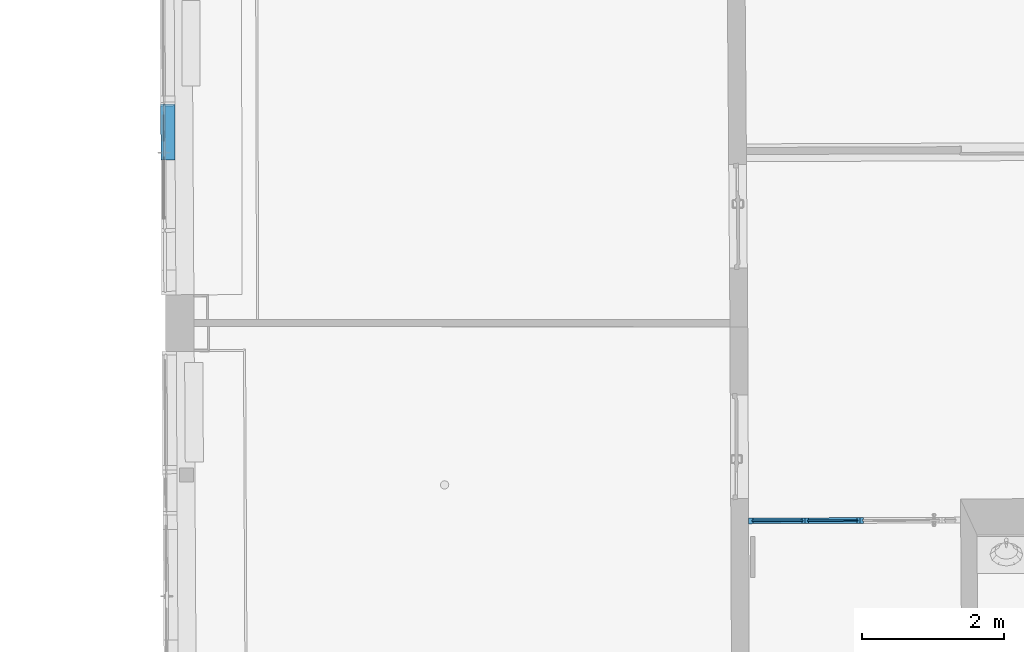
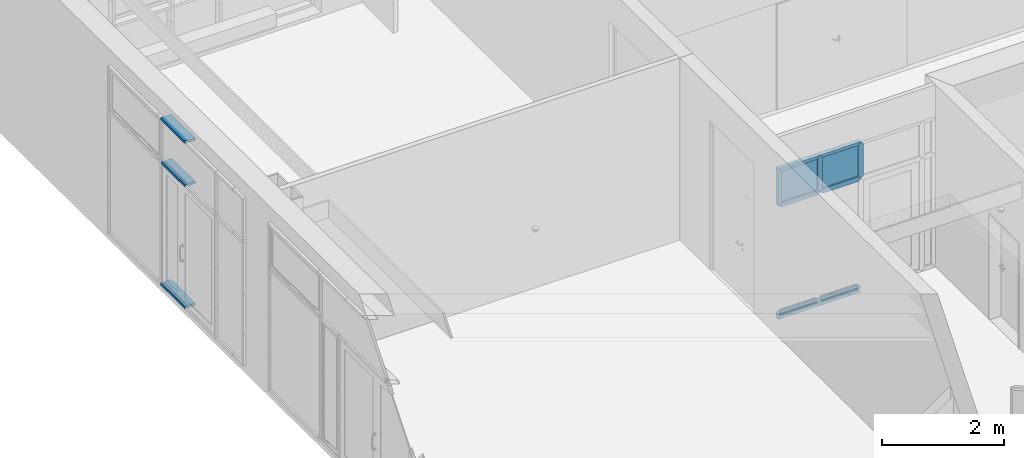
# One storey, part 154 of 196: 20 building element parts, 2 elements without a shape of their own.
"""IFC2X3 building model written with IfcOpenShell, lengths in metres."""

from ifc_helpers import new_model, entity, si_unit, converted_unit, derived_unit, money_unit, direction, frame, origin_with_axes, place, context, subcontext, project, spatial, faceted_brep, material, type_object, element, aggregate, save


model = new_model("IFC2X3")

# Units and contexts
model_context = context("Model", 3, precision=1e-05, world=origin_with_axes(), true_north=direction((0.0, 1.0)))
body_context = subcontext(model_context, "Body", "Model", "MODEL_VIEW")
ifc_project = project(units=[si_unit("LENGTHUNIT", "METRE"), si_unit("AREAUNIT", "SQUARE_METRE"), si_unit("VOLUMEUNIT", "CUBIC_METRE"), converted_unit("PLANEANGLEUNIT", "DEGREE", entity("IfcPlaneAngleMeasure", 0.0174532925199), si_unit("PLANEANGLEUNIT", "RADIAN"), dimensions=[0, 0, 0, 0, 0, 0, 0]), money_unit("EUR"), converted_unit("TIMEUNIT", "Year", entity("IfcTimeMeasure", 31556926.0), si_unit("TIMEUNIT", "SECOND"), dimensions=[0, 0, 1, 0, 0, 0, 0]), si_unit("MASSUNIT", "GRAM", prefix="KILO"), si_unit("THERMODYNAMICTEMPERATUREUNIT", "DEGREE_CELSIUS"), si_unit("LUMINOUSINTENSITYUNIT", "LUMEN"), si_unit("ENERGYUNIT", "JOULE", prefix="MEGA"), derived_unit("THERMALCONDUCTANCEUNIT", [(si_unit("POWERUNIT", "WATT"), 1), (si_unit("LENGTHUNIT", "METRE"), -1), (si_unit("THERMODYNAMICTEMPERATUREUNIT", "KELVIN"), -1)]), derived_unit("SPECIFICHEATCAPACITYUNIT", [(si_unit("ENERGYUNIT", "JOULE"), 1), (si_unit("MASSUNIT", "GRAM", prefix="KILO"), -1), (si_unit("THERMODYNAMICTEMPERATUREUNIT", "KELVIN"), -1)]), derived_unit("MASSDENSITYUNIT", [(si_unit("MASSUNIT", "GRAM", prefix="KILO"), 1), (si_unit("VOLUMEUNIT", "CUBIC_METRE"), -1)])], contexts=[model_context])

# Site, building, storey
site_placement = place(None, origin_with_axes())
site = spatial("IfcSite", under=ifc_project, at=site_placement, Name="Gelände", CompositionType="ELEMENT")
building_placement = place(site_placement, origin_with_axes())
building = spatial("IfcBuilding", under=site, at=building_placement, Name="Gebäude", CompositionType="ELEMENT")
storey_placement = place(building_placement, frame((0.0, 0.0, -3.0), z_axis=(0.0, 0.0, 1.0), x_axis=(1.0, 0.0, 0.0)))
storey = spatial("IfcBuildingStorey", under=building, at=storey_placement, Name="KELLERGESCHOSS", CompositionType="ELEMENT", Elevation=-3.0)

# Proxy, building element parts
building_element_proxy_type = type_object("IfcBuildingElementProxyType", Name="Fassadentyp", PredefinedType="NOTDEFINED")
proxy_1_placement = place(storey_placement, frame((-23.852064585, 42.2751077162, 0.417602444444), z_axis=(0.0, 0.0, 1.0), x_axis=(1.0, 0.0, 0.0)))
proxy_1 = element("IfcBuildingElementProxy", 1, at=proxy_1_placement, inside=storey, type_object=building_element_proxy_type, Name="Fassade-002")
ifc_material_1 = material(Name="45_Glas, Normalglas")
building_element_part_1_placement = place(proxy_1_placement, origin_with_axes())
building_element_part_1 = element("IfcBuildingElementPart", 2, at=building_element_part_1_placement, material=ifc_material_1, Name="45_Glas, Normalglas", context=body_context, shape_type="Brep", body=[
    faceted_brep([(-1.31205022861, 0.00475962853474, 2.96000001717), (-2.02504279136, 0.0019118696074, 2.96000001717), (-2.02496291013, -0.0180879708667, 2.96000001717), (-1.31197034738, -0.0152402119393, 2.96000001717), (-1.31205022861, 0.00475962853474, 2.29924697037), (-2.02504279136, 0.0019118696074, 2.29924697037), (-2.02496291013, -0.0180879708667, 2.29924697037), (-1.31197034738, -0.0152402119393, 2.29924697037)], [[[0, 1, 2, 3]], [[0, 4, 5, 1]], [[1, 5, 6, 2]], [[3, 2, 6, 7]], [[4, 0, 3, 7]], [[5, 4, 7, 6]]]),
])
building_element_part_2_placement = place(proxy_1_placement, origin_with_axes())
building_element_part_2 = element("IfcBuildingElementPart", 3, at=building_element_part_2_placement, material=ifc_material_1, Name="45_Glas, Normalglas", context=body_context, shape_type="Brep", body=[
    faceted_brep([(-2.08504230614, 0.00167222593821, 2.96000002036), (-2.80598863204, -0.00120730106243, 2.96000002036), (-2.80590875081, -0.0212071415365, 2.96000002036), (-2.08496242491, -0.0183276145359, 2.96000002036), (-2.08504230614, 0.00167222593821, 2.29924696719), (-2.80598863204, -0.00120730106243, 2.29924696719), (-2.80590875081, -0.0212071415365, 2.29924696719), (-2.08496242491, -0.0183276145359, 2.29924696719)], [[[0, 1, 2, 3]], [[0, 4, 5, 1]], [[1, 5, 6, 2]], [[3, 2, 6, 7]], [[4, 0, 3, 7]], [[5, 4, 7, 6]]]),
])
building_element_part_3_placement = place(proxy_1_placement, origin_with_axes())
building_element_part_3 = element("IfcBuildingElementPart", 4, at=building_element_part_3_placement, material=ifc_material_1, Name="45_Glas, Normalglas", context=body_context, shape_type="Brep", body=[
    faceted_brep([(-1.31205022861, 0.00475962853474, 0.074973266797), (-2.02504279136, 0.0019118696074, 0.074973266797), (-2.02496291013, -0.0180879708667, 0.074973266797), (-1.31197034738, -0.0152402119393, 0.074973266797), (-1.31205022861, 0.00475962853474, 0.0450000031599), (-2.02504279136, 0.0019118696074, 0.0450000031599), (-2.02496291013, -0.0180879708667, 0.0450000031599), (-1.31197034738, -0.0152402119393, 0.0450000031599)], [[[0, 1, 2, 3]], [[0, 4, 5, 1]], [[1, 5, 6, 2]], [[3, 2, 6, 7]], [[4, 0, 3, 7]], [[5, 4, 7, 6]]]),
])
building_element_part_4_placement = place(proxy_1_placement, origin_with_axes())
building_element_part_4 = element("IfcBuildingElementPart", 5, at=building_element_part_4_placement, material=ifc_material_1, Name="45_Glas, Normalglas", context=body_context, shape_type="Brep", body=[
    faceted_brep([(-2.08504230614, 0.00167222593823, 0.0749732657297), (-2.80598863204, -0.00120730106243, 0.0749732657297), (-2.80590875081, -0.0212071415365, 0.0749732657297), (-2.08496242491, -0.0183276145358, 0.0749732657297), (-2.08504230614, 0.00167222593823, 0.0450000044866), (-2.80598863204, -0.00120730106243, 0.0450000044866), (-2.80590875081, -0.0212071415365, 0.0450000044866), (-2.08496242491, -0.0183276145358, 0.0450000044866)], [[[0, 1, 2, 3]], [[0, 4, 5, 1]], [[1, 5, 6, 2]], [[3, 2, 6, 7]], [[4, 0, 3, 7]], [[5, 4, 7, 6]]]),
])
ifc_material_2 = material(Name="53_Metall, Aluminium")
building_element_part_5_placement = place(proxy_1_placement, origin_with_axes())
building_element_part_5 = element("IfcBuildingElementPart", 6, at=building_element_part_5_placement, material=ifc_material_2, Name="53_Metall, Aluminium", context=body_context, shape_type="Brep", body=[
    faceted_brep([(-2.80598863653, -0.00120730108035, 2.96000001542), (-2.79098875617, -0.00114739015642, 2.94500001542), (-2.79110857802, 0.0288523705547, 2.94500001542), (-2.85110809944, 0.028612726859, 3.00500001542), (-2.85078857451, -0.0513866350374, 3.00500001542), (-2.79078905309, -0.0511469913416, 2.94500001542), (-2.79090887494, -0.0211472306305, 2.94500001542), (-2.8059087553, -0.0212071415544, 2.96000001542), (-2.80598863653, -0.00120730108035, 2.30299697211), (-2.79098875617, -0.00114739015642, 2.31424697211), (-2.79110857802, 0.0288523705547, 2.31424697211), (-2.85110809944, 0.028612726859, 2.26924697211), (-2.85078857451, -0.0513866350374, 2.26924697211), (-2.79078905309, -0.0511469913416, 2.31424697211), (-2.79090887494, -0.0211472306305, 2.31424697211), (-2.8059087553, -0.0212071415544, 2.30299697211)], [[[0, 1, 2, 3, 4, 5, 6, 7]], [[0, 8, 9, 1]], [[9, 10, 2, 1]], [[10, 11, 3, 2]], [[11, 12, 4, 3]], [[12, 13, 5, 4]], [[6, 5, 13, 14]], [[14, 15, 7, 6]], [[7, 15, 8, 0]], [[8, 15, 14, 13, 12, 11, 10, 9]]]),
])
building_element_part_6_placement = place(proxy_1_placement, origin_with_axes())
building_element_part_6 = element("IfcBuildingElementPart", 7, at=building_element_part_6_placement, material=ifc_material_2, Name="53_Metall, Aluminium", context=body_context, shape_type="Brep", body=[
    faceted_brep([(-2.02504278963, 0.00191186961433, 2.96500001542), (-2.01004290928, 0.00197178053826, 2.94500001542), (-2.01016273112, 0.0319715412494, 2.94500001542), (-2.05516237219, 0.0317918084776, 3.00500001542), (-2.05484284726, -0.0482075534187, 3.00500001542), (-2.0098432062, -0.048027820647, 2.94500001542), (-2.00996302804, -0.0180280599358, 2.94500001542), (-2.0249629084, -0.0180879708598, 2.96500001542), (-2.02504278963, 0.00191186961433, 2.29924697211), (-2.01004290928, 0.00197178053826, 2.31424697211), (-2.01016273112, 0.0319715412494, 2.31424697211), (-2.05516237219, 0.0317918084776, 2.26924697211), (-2.10016201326, 0.0316120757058, 2.31424697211), (-2.10016201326, 0.0316120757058, 2.94500001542), (-2.10004219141, 0.00161231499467, 2.94500001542), (-2.08504231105, 0.0016722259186, 2.96500001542), (-2.08496242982, -0.0183276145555, 2.96500001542), (-2.09996231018, -0.0183875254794, 2.94500001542), (-2.09984248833, -0.0483872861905, 2.94500001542), (-2.05484284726, -0.0482075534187, 2.26924697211), (-2.0098432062, -0.048027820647, 2.31424697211), (-2.09984248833, -0.0483872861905, 2.31424697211), (-2.00996302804, -0.0180280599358, 2.31424697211), (-2.0249629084, -0.0180879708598, 2.29924697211), (-2.09996231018, -0.0183875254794, 2.31424697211), (-2.08496242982, -0.0183276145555, 2.29924697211), (-2.08504231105, 0.0016722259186, 2.29924697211), (-2.10004219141, 0.00161231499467, 2.31424697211)], [[[0, 1, 2, 3, 4, 5, 6, 7]], [[1, 0, 8, 9]], [[1, 9, 10, 2]], [[11, 12, 13, 3, 2, 10]], [[3, 13, 14, 15, 16, 17, 18, 4]], [[19, 20, 5, 4, 18, 21]], [[22, 6, 5, 20]], [[7, 6, 22, 23]], [[0, 7, 23, 8]], [[23, 22, 20, 19, 11, 10, 9, 8]], [[21, 24, 25, 26, 27, 12, 11, 19]], [[14, 13, 12, 27]], [[14, 27, 26, 15]], [[15, 26, 25, 16]], [[17, 16, 25, 24]], [[24, 21, 18, 17]]]),
])
building_element_part_7_placement = place(proxy_1_placement, origin_with_axes())
building_element_part_7 = element("IfcBuildingElementPart", 8, at=building_element_part_7_placement, material=ifc_material_2, Name="53_Metall, Aluminium", context=body_context, shape_type="Brep", body=[
    faceted_brep([(-2.08879228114, 0.00165724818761, 0.045), (-2.08871239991, -0.0183425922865, 0.045), (-2.09996231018, -0.0183875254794, 0.06), (-2.09984248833, -0.0483872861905, 0.06), (-2.05484284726, -0.0482075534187, 0.0), (-2.05516237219, 0.0317918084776, 0.0), (-2.10016201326, 0.0316120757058, 0.06), (-2.10004219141, 0.00161231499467, 0.06), (-2.80598863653, -0.00120730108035, 0.045), (-2.8059087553, -0.0212071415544, 0.045), (-2.79090887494, -0.0211472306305, 0.06), (-2.79078905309, -0.0511469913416, 0.06), (-2.85078857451, -0.0513866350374, 0.0), (-2.85110809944, 0.028612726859, 0.0), (-2.79110857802, 0.0288523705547, 0.06), (-2.79098875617, -0.00114739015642, 0.06)], [[[0, 1, 2, 3, 4, 5, 6, 7]], [[1, 0, 8, 9]], [[10, 2, 1, 9]], [[2, 10, 11, 3]], [[4, 3, 11, 12]], [[5, 4, 12, 13]], [[6, 5, 13, 14]], [[15, 7, 6, 14]], [[0, 7, 15, 8]], [[8, 15, 14, 13, 12, 11, 10, 9]]]),
])
building_element_part_8_placement = place(proxy_1_placement, origin_with_axes())
building_element_part_8 = element("IfcBuildingElementPart", 9, at=building_element_part_8_placement, material=ifc_material_2, Name="53_Metall, Aluminium", context=body_context, shape_type="Brep", body=[
    faceted_brep([(-2.08879228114, 0.00165724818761, 2.96000001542), (-2.10004219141, 0.00161231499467, 2.94500001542), (-2.10016201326, 0.0316120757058, 2.94500001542), (-2.05516237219, 0.0317918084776, 3.00500001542), (-2.05484284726, -0.0482075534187, 3.00500001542), (-2.09984248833, -0.0483872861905, 2.94500001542), (-2.09996231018, -0.0183875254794, 2.94500001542), (-2.08871239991, -0.0183425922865, 2.96000001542), (-2.80598863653, -0.00120730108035, 2.96000001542), (-2.79098875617, -0.00114739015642, 2.94500001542), (-2.79110857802, 0.0288523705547, 2.94500001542), (-2.85110809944, 0.028612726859, 3.00500001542), (-2.85078857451, -0.0513866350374, 3.00500001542), (-2.79078905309, -0.0511469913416, 2.94500001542), (-2.79090887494, -0.0211472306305, 2.94500001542), (-2.8059087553, -0.0212071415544, 2.96000001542)], [[[0, 1, 2, 3, 4, 5, 6, 7]], [[0, 8, 9, 1]], [[9, 10, 2, 1]], [[2, 10, 11, 3]], [[3, 11, 12, 4]], [[4, 12, 13, 5]], [[6, 5, 13, 14]], [[14, 15, 7, 6]], [[7, 15, 8, 0]], [[8, 15, 14, 13, 12, 11, 10, 9]]]),
])
building_element_part_9_placement = place(proxy_1_placement, origin_with_axes())
building_element_part_9 = element("IfcBuildingElementPart", 10, at=building_element_part_9_placement, material=ifc_material_2, Name="53_Metall, Aluminium", context=body_context, shape_type="Brep", body=[
    faceted_brep([(-1.31580020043, 0.00474465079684, 2.96000001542), (-1.3270501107, 0.0046997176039, 2.94500001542), (-1.32716993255, 0.034699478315, 2.94500001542), (-1.28217029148, 0.0348792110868, 3.00500001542), (-1.28185076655, -0.0451201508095, 3.00500001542), (-1.32685040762, -0.0452998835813, 2.94500001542), (-1.32697022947, -0.0153001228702, 2.94500001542), (-1.3157203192, -0.0152551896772, 2.96000001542), (-2.02129281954, 0.00192684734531, 2.96000001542), (-2.01004290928, 0.00197178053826, 2.94500001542), (-2.01016273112, 0.0319715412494, 2.94500001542), (-2.05516237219, 0.0317918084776, 3.00500001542), (-2.05484284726, -0.0482075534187, 3.00500001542), (-2.0098432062, -0.048027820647, 2.94500001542), (-2.00996302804, -0.0180280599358, 2.94500001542), (-2.02121293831, -0.0180729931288, 2.96000001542)], [[[0, 1, 2, 3, 4, 5, 6, 7]], [[0, 8, 9, 1]], [[9, 10, 2, 1]], [[2, 10, 11, 3]], [[3, 11, 12, 4]], [[4, 12, 13, 5]], [[6, 5, 13, 14]], [[14, 15, 7, 6]], [[7, 15, 8, 0]], [[8, 15, 14, 13, 12, 11, 10, 9]]]),
])
building_element_part_10_placement = place(proxy_1_placement, origin_with_axes())
building_element_part_10 = element("IfcBuildingElementPart", 11, at=building_element_part_10_placement, material=ifc_material_2, Name="53_Metall, Aluminium", context=body_context, shape_type="Brep", body=[
    faceted_brep([(-1.25205070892, 0.00499927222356, 2.96500001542), (-1.23705082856, 0.00505918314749, 2.94500001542), (-1.23717065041, 0.0350589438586, 2.94500001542), (-1.28217029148, 0.0348792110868, 3.00500001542), (-1.28185076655, -0.0451201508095, 3.00500001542), (-1.23685112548, -0.0449404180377, 2.94500001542), (-1.23697094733, -0.0149406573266, 2.94500001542), (-1.25197082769, -0.0150005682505, 2.96500001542), (-1.25205070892, 0.00499927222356, 2.29924697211), (-1.23705082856, 0.00505918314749, 2.31424697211), (-1.23717065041, 0.0350589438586, 2.31424697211), (-1.28217029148, 0.0348792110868, 2.26924697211), (-1.32716993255, 0.034699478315, 2.31424697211), (-1.32716993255, 0.034699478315, 2.94500001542), (-1.3270501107, 0.0046997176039, 2.94500001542), (-1.31205023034, 0.00475962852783, 2.96500001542), (-1.31197034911, -0.0152402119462, 2.96500001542), (-1.32697022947, -0.0153001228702, 2.94500001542), (-1.32685040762, -0.0452998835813, 2.94500001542), (-1.28185076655, -0.0451201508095, 2.26924697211), (-1.23685112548, -0.0449404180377, 2.31424697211), (-1.32685040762, -0.0452998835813, 2.31424697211), (-1.23697094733, -0.0149406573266, 2.31424697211), (-1.25197082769, -0.0150005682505, 2.29924697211), (-1.32697022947, -0.0153001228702, 2.31424697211), (-1.31197034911, -0.0152402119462, 2.29924697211), (-1.31205023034, 0.00475962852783, 2.29924697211), (-1.3270501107, 0.0046997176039, 2.31424697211)], [[[0, 1, 2, 3, 4, 5, 6, 7]], [[1, 0, 8, 9]], [[1, 9, 10, 2]], [[11, 12, 13, 3, 2, 10]], [[3, 13, 14, 15, 16, 17, 18, 4]], [[19, 20, 5, 4, 18, 21]], [[22, 6, 5, 20]], [[7, 6, 22, 23]], [[0, 7, 23, 8]], [[23, 22, 20, 19, 11, 10, 9, 8]], [[21, 24, 25, 26, 27, 12, 11, 19]], [[14, 13, 12, 27]], [[14, 27, 26, 15]], [[15, 26, 25, 16]], [[17, 16, 25, 24]], [[24, 21, 18, 17]]]),
])
building_element_part_11_placement = place(proxy_1_placement, origin_with_axes())
building_element_part_11 = element("IfcBuildingElementPart", 12, at=building_element_part_11_placement, material=ifc_material_2, Name="53_Metall, Aluminium", context=body_context, shape_type="Brep", body=[
    faceted_brep([(-1.31580020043, 0.00474465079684, 0.045), (-1.3157203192, -0.0152551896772, 0.045), (-1.32697022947, -0.0153001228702, 0.06), (-1.32685040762, -0.0452998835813, 0.06), (-1.28185076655, -0.0451201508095, 0.0), (-1.28217029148, 0.0348792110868, 0.0), (-1.32716993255, 0.034699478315, 0.06), (-1.3270501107, 0.0046997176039, 0.06), (-2.02129281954, 0.00192684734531, 0.045), (-2.02121293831, -0.0180729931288, 0.045), (-2.00996302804, -0.0180280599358, 0.06), (-2.0098432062, -0.048027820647, 0.06), (-2.05484284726, -0.0482075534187, 0.0), (-2.05516237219, 0.0317918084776, 0.0), (-2.01016273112, 0.0319715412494, 0.06), (-2.01004290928, 0.00197178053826, 0.06)], [[[0, 1, 2, 3, 4, 5, 6, 7]], [[1, 0, 8, 9]], [[10, 2, 1, 9]], [[2, 10, 11, 3]], [[4, 3, 11, 12]], [[5, 4, 12, 13]], [[6, 5, 13, 14]], [[15, 7, 6, 14]], [[0, 7, 15, 8]], [[8, 15, 14, 13, 12, 11, 10, 9]]]),
])
building_element_part_12_placement = place(proxy_1_placement, origin_with_axes())
building_element_part_12 = element("IfcBuildingElementPart", 13, at=building_element_part_12_placement, material=ifc_material_2, Name="53_Metall, Aluminium", context=body_context, shape_type="Brep", body=[
    faceted_brep([(-1.31205023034, 0.00475962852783, 2.23924697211), (-1.3270501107, 0.0046997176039, 2.22424697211), (-1.32716993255, 0.034699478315, 2.22424697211), (-1.28217029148, 0.0348792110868, 2.26924697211), (-1.28185076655, -0.0451201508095, 2.26924697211), (-1.32685040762, -0.0452998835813, 2.22424697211), (-1.32697022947, -0.0153001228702, 2.22424697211), (-1.31197034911, -0.0152402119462, 2.23924697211), (-2.02504278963, 0.00191186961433, 2.23924697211), (-2.01004290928, 0.00197178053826, 2.22424697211), (-2.01016273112, 0.0319715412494, 2.22424697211), (-2.05516237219, 0.0317918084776, 2.26924697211), (-2.01016273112, 0.0319715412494, 2.31424697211), (-1.32716993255, 0.034699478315, 2.31424697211), (-1.3270501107, 0.0046997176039, 2.31424697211), (-1.31205023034, 0.00475962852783, 2.29924697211), (-1.31197034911, -0.0152402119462, 2.29924697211), (-1.32697022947, -0.0153001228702, 2.31424697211), (-1.32685040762, -0.0452998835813, 2.31424697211), (-2.05484284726, -0.0482075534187, 2.26924697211), (-2.0098432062, -0.048027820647, 2.22424697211), (-2.0098432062, -0.048027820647, 2.31424697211), (-2.00996302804, -0.0180280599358, 2.22424697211), (-2.0249629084, -0.0180879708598, 2.23924697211), (-2.00996302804, -0.0180280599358, 2.31424697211), (-2.0249629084, -0.0180879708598, 2.29924697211), (-2.02504278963, 0.00191186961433, 2.29924697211), (-2.01004290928, 0.00197178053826, 2.31424697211)], [[[0, 1, 2, 3, 4, 5, 6, 7]], [[1, 0, 8, 9]], [[1, 9, 10, 2]], [[11, 12, 13, 3, 2, 10]], [[3, 13, 14, 15, 16, 17, 18, 4]], [[19, 20, 5, 4, 18, 21]], [[22, 6, 5, 20]], [[7, 6, 22, 23]], [[0, 7, 23, 8]], [[23, 22, 20, 19, 11, 10, 9, 8]], [[21, 24, 25, 26, 27, 12, 11, 19]], [[14, 13, 12, 27]], [[14, 27, 26, 15]], [[15, 26, 25, 16]], [[17, 16, 25, 24]], [[24, 21, 18, 17]]]),
])
building_element_part_13_placement = place(proxy_1_placement, origin_with_axes())
building_element_part_13 = element("IfcBuildingElementPart", 14, at=building_element_part_13_placement, material=ifc_material_2, Name="53_Metall, Aluminium", context=body_context, shape_type="Brep", body=[
    faceted_brep([(-2.08504231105, 0.0016722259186, 2.23924697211), (-2.10004219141, 0.00161231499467, 2.22424697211), (-2.10016201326, 0.0316120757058, 2.22424697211), (-2.05516237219, 0.0317918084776, 2.26924697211), (-2.05484284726, -0.0482075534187, 2.26924697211), (-2.09984248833, -0.0483872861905, 2.22424697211), (-2.09996231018, -0.0183875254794, 2.22424697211), (-2.08496242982, -0.0183276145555, 2.23924697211), (-2.81098859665, -0.00122727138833, 2.23924697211), (-2.79098875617, -0.00114739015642, 2.22424697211), (-2.79110857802, 0.0288523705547, 2.22424697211), (-2.85110809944, 0.028612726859, 2.26924697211), (-2.79110857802, 0.0288523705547, 2.31424697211), (-2.10016201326, 0.0316120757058, 2.31424697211), (-2.10004219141, 0.00161231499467, 2.31424697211), (-2.08504231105, 0.0016722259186, 2.29924697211), (-2.08496242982, -0.0183276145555, 2.29924697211), (-2.09996231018, -0.0183875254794, 2.31424697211), (-2.09984248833, -0.0483872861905, 2.31424697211), (-2.85078857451, -0.0513866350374, 2.26924697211), (-2.79078905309, -0.0511469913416, 2.22424697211), (-2.79078905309, -0.0511469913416, 2.31424697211), (-2.79090887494, -0.0211472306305, 2.22424697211), (-2.81090871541, -0.0212271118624, 2.23924697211), (-2.79090887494, -0.0211472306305, 2.31424697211), (-2.81090871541, -0.0212271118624, 2.29924697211), (-2.81098859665, -0.00122727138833, 2.29924697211), (-2.79098875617, -0.00114739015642, 2.31424697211)], [[[0, 1, 2, 3, 4, 5, 6, 7]], [[1, 0, 8, 9]], [[1, 9, 10, 2]], [[11, 12, 13, 3, 2, 10]], [[3, 13, 14, 15, 16, 17, 18, 4]], [[19, 20, 5, 4, 18, 21]], [[22, 6, 5, 20]], [[7, 6, 22, 23]], [[0, 7, 23, 8]], [[23, 22, 20, 19, 11, 10, 9, 8]], [[21, 24, 25, 26, 27, 12, 11, 19]], [[14, 13, 12, 27]], [[14, 27, 26, 15]], [[15, 26, 25, 16]], [[17, 16, 25, 24]], [[24, 21, 18, 17]]]),
])
building_element_part_14_placement = place(proxy_1_placement, origin_with_axes())
building_element_part_14 = element("IfcBuildingElementPart", 15, at=building_element_part_14_placement, material=ifc_material_2, Name="53_Metall, Aluminium", context=body_context, shape_type="Brep", body=[
    faceted_brep([(-1.3101752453, 0.00476711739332, 0.0749732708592), (-1.3270501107, 0.0046997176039, 0.0599732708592), (-1.32716993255, 0.034699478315, 0.0599732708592), (-1.28217029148, 0.0348792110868, 0.0999732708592), (-1.28185076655, -0.0451201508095, 0.0999732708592), (-1.32685040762, -0.0452998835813, 0.0599732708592), (-1.32697022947, -0.0153001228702, 0.0599732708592), (-1.31009536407, -0.0152327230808, 0.0749732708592), (-2.02691777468, 0.00190438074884, 0.0749732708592), (-2.01004290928, 0.00197178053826, 0.0599732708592), (-2.01016273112, 0.0319715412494, 0.0599732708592), (-2.05516237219, 0.0317918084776, 0.0999732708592), (-2.01016273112, 0.0319715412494, 0.139973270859), (-1.32716993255, 0.034699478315, 0.139973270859), (-1.3270501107, 0.0046997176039, 0.139973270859), (-1.3101752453, 0.00476711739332, 0.124973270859), (-1.31009536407, -0.0152327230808, 0.124973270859), (-1.32697022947, -0.0153001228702, 0.139973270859), (-1.32685040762, -0.0452998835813, 0.139973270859), (-2.05484284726, -0.0482075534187, 0.0999732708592), (-2.0098432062, -0.048027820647, 0.0599732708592), (-2.0098432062, -0.048027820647, 0.139973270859), (-2.00996302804, -0.0180280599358, 0.0599732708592), (-2.02683789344, -0.0180954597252, 0.0749732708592), (-2.00996302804, -0.0180280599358, 0.139973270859), (-2.02683789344, -0.0180954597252, 0.124973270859), (-2.02691777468, 0.00190438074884, 0.124973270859), (-2.01004290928, 0.00197178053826, 0.139973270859)], [[[0, 1, 2, 3, 4, 5, 6, 7]], [[1, 0, 8, 9]], [[1, 9, 10, 2]], [[11, 12, 13, 3, 2, 10]], [[3, 13, 14, 15, 16, 17, 18, 4]], [[19, 20, 5, 4, 18, 21]], [[22, 6, 5, 20]], [[7, 6, 22, 23]], [[0, 7, 23, 8]], [[23, 22, 20, 19, 11, 10, 9, 8]], [[21, 24, 25, 26, 27, 12, 11, 19]], [[14, 13, 12, 27]], [[14, 27, 26, 15]], [[15, 26, 25, 16]], [[17, 16, 25, 24]], [[24, 21, 18, 17]]]),
])
building_element_part_15_placement = place(proxy_1_placement, origin_with_axes())
building_element_part_15 = element("IfcBuildingElementPart", 16, at=building_element_part_15_placement, material=ifc_material_2, Name="53_Metall, Aluminium", context=body_context, shape_type="Brep", body=[
    faceted_brep([(-2.08316732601, 0.00167971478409, 0.0749732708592), (-2.10004219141, 0.00161231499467, 0.0599732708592), (-2.10016201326, 0.0316120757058, 0.0599732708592), (-2.05516237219, 0.0317918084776, 0.0999732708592), (-2.05484284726, -0.0482075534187, 0.0999732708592), (-2.09984248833, -0.0483872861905, 0.0599732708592), (-2.09996231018, -0.0183875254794, 0.0599732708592), (-2.08308744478, -0.01832012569, 0.0749732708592), (-2.81348857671, -0.00123725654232, 0.0749732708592), (-2.79098875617, -0.00114739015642, 0.0599732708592), (-2.79110857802, 0.0288523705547, 0.0599732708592), (-2.85110809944, 0.028612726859, 0.0999732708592), (-2.79110857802, 0.0288523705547, 0.139973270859), (-2.10016201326, 0.0316120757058, 0.139973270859), (-2.10004219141, 0.00161231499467, 0.139973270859), (-2.08316732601, 0.00167971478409, 0.124973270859), (-2.08308744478, -0.01832012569, 0.124973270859), (-2.09996231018, -0.0183875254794, 0.139973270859), (-2.09984248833, -0.0483872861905, 0.139973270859), (-2.85078857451, -0.0513866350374, 0.0999732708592), (-2.79078905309, -0.0511469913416, 0.0599732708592), (-2.79078905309, -0.0511469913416, 0.139973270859), (-2.79090887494, -0.0211472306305, 0.0599732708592), (-2.81340869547, -0.0212370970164, 0.0749732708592), (-2.79090887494, -0.0211472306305, 0.139973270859), (-2.81340869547, -0.0212370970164, 0.124973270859), (-2.81348857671, -0.00123725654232, 0.124973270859), (-2.79098875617, -0.00114739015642, 0.139973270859)], [[[0, 1, 2, 3, 4, 5, 6, 7]], [[1, 0, 8, 9]], [[1, 9, 10, 2]], [[11, 12, 13, 3, 2, 10]], [[3, 13, 14, 15, 16, 17, 18, 4]], [[19, 20, 5, 4, 18, 21]], [[22, 6, 5, 20]], [[7, 6, 22, 23]], [[0, 7, 23, 8]], [[23, 22, 20, 19, 11, 10, 9, 8]], [[21, 24, 25, 26, 27, 12, 11, 19]], [[14, 13, 12, 27]], [[14, 27, 26, 15]], [[15, 26, 25, 16]], [[17, 16, 25, 24]], [[24, 21, 18, 17]]]),
])
building_element_part_16_placement = place(proxy_1_placement, origin_with_axes())
building_element_part_16 = element("IfcBuildingElementPart", 17, at=building_element_part_16_placement, material=ifc_material_2, Name="53_Metall, Aluminium", context=body_context, shape_type="Brep", body=[
    faceted_brep([(-2.02504278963, 0.00191186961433, 0.0733066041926), (-2.01005493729, 0.00197173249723, 0.0599839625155), (-2.01017475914, 0.0319714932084, 0.0599839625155), (-2.05516237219, 0.0317918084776, 0.0999732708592), (-2.05484284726, -0.0482075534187, 0.0999732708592), (-2.00985523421, -0.048027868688, 0.0599839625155), (-2.00997505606, -0.0180281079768, 0.0599839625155), (-2.0249629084, -0.0180879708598, 0.0733066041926), (-2.02504278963, 0.00191186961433, 0.04), (-2.0249629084, -0.0180879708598, 0.04), (-2.05484284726, -0.0482075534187, 0.0), (-2.05516237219, 0.0317918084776, 0.0), (-2.10014998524, 0.0316121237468, 0.0599839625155), (-2.10003016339, 0.00161236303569, 0.0599839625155), (-2.08504231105, 0.0016722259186, 0.0733066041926), (-2.08496242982, -0.0183276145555, 0.0733066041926), (-2.09995028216, -0.0183874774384, 0.0599839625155), (-2.09983046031, -0.0483872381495, 0.0599839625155), (-2.08496242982, -0.0183276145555, 0.04), (-2.08504231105, 0.0016722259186, 0.04)], [[[0, 1, 2, 3, 4, 5, 6, 7]], [[1, 0, 8]], [[9, 6, 5, 10, 11, 2, 1, 8]], [[3, 2, 11, 12]], [[3, 12, 13, 14, 15, 16, 17, 4]], [[4, 17, 10, 5]], [[7, 6, 9]], [[0, 7, 9, 8]], [[17, 16, 18, 19, 13, 12, 11, 10]], [[14, 13, 19]], [[14, 19, 18, 15]], [[18, 16, 15]]]),
])
building_element_part_17_placement = place(proxy_1_placement, origin_with_axes())
building_element_part_17 = element("IfcBuildingElementPart", 18, at=building_element_part_17_placement, material=ifc_material_2, Name="53_Metall, Aluminium", context=body_context, shape_type="Brep", body=[
    faceted_brep([(-2.80598863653, -0.00120730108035, 0.0699732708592), (-2.79100479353, -0.00114745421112, 0.0599839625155), (-2.79112461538, 0.0288523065, 0.0599839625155), (-2.85110809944, 0.028612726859, 0.0999732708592), (-2.85078857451, -0.0513866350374, 0.0999732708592), (-2.79080509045, -0.0511470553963, 0.0599839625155), (-2.7909249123, -0.0211472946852, 0.0599839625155), (-2.8059087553, -0.0212071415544, 0.0699732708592), (-2.80598863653, -0.00120730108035, 0.045), (-2.8059087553, -0.0212071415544, 0.045), (-2.85078857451, -0.0513866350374, 0.0), (-2.85110809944, 0.028612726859, 0.0)], [[[0, 1, 2, 3, 4, 5, 6, 7]], [[0, 8, 1]], [[8, 9, 6, 5, 10, 11, 2, 1]], [[2, 11, 3]], [[4, 3, 11, 10]], [[4, 10, 5]], [[9, 7, 6]], [[7, 9, 8, 0]]]),
])
aggregate(proxy_1, [building_element_part_1, building_element_part_2, building_element_part_3, building_element_part_4, building_element_part_5, building_element_part_6, building_element_part_7, building_element_part_8, building_element_part_9, building_element_part_10, building_element_part_11, building_element_part_12, building_element_part_13, building_element_part_14, building_element_part_15, building_element_part_16, building_element_part_17])

proxy_2_placement = place(storey_placement, frame((-34.913387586, 47.2552574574, 0.421025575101), z_axis=(0.0, 0.0, 1.0), x_axis=(1.0, 0.0, 0.0)))
proxy_2 = element("IfcBuildingElementProxy", 19, at=proxy_2_placement, inside=storey, type_object=building_element_proxy_type, Name="Fassade-002")
building_element_part_18_placement = place(proxy_2_placement, origin_with_axes())
building_element_part_18 = element("IfcBuildingElementPart", 20, at=building_element_part_18_placement, material=ifc_material_2, Name="53_Metall, Aluminium", context=body_context, shape_type="Brep", body=[
    faceted_brep([(0.00951828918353, 0.0821649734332, 0.0349999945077), (-0.0104813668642, 0.0820476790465, 0.0349999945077), (-0.0104813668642, 0.0820476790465, 0.0499999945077), (-0.0504806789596, 0.0818130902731, 0.0499999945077), (-0.0504806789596, 0.0818130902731, -5.49228174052e-09), (0.149515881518, 0.0829860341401, -5.49228174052e-09), (0.149515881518, 0.0829860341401, 0.0499999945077), (0.00951828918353, 0.0821649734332, 0.0499999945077), (0.00490654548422, 0.868505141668, 0.0349999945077), (-0.0150931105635, 0.868387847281, 0.0349999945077), (-0.0150931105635, 0.868387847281, 0.0499999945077), (-0.0550924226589, 0.868153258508, 0.0499999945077), (-0.0550924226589, 0.868153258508, -5.49228174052e-09), (0.144904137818, 0.869326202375, -5.49228174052e-09), (0.144904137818, 0.869326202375, 0.0499999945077), (0.00490654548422, 0.868505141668, 0.0499999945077)], [[[0, 1, 2, 3, 4, 5, 6, 7]], [[1, 0, 8, 9]], [[10, 2, 1, 9]], [[2, 10, 11, 3]], [[12, 4, 3, 11]], [[13, 5, 4, 12]], [[14, 6, 5, 13]], [[15, 7, 6, 14]], [[0, 7, 15, 8]], [[8, 15, 14, 13, 12, 11, 10, 9]]]),
])
building_element_part_19_placement = place(proxy_2_placement, origin_with_axes())
building_element_part_19 = element("IfcBuildingElementPart", 21, at=building_element_part_19_placement, material=ifc_material_2, Name="53_Metall, Aluminium", context=body_context, shape_type="Brep", body=[
    faceted_brep([(0.00951828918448, 0.0821649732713, 2.44764337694), (0.00951828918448, 0.0821649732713, 2.43264337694), (0.149515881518, 0.0829860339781, 2.43264337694), (0.149515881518, 0.0829860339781, 2.48264337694), (0.00951828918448, 0.0821649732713, 2.48264337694), (0.00951828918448, 0.0821649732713, 2.46764337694), (-0.0104813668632, 0.0820476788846, 2.46764337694), (-0.0104813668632, 0.0820476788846, 2.48264337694), (-0.0504806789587, 0.0818130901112, 2.48264337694), (-0.0504806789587, 0.0818130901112, 2.43264337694), (-0.0104813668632, 0.0820476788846, 2.43264337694), (-0.0104813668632, 0.0820476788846, 2.44764337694), (0.00505316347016, 0.843505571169, 2.44764337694), (0.00505316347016, 0.843505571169, 2.43264337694), (0.145050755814, 0.844326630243, 2.43264337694), (0.145050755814, 0.844326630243, 2.48264337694), (0.00505316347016, 0.843505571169, 2.48264337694), (0.00505316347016, 0.843505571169, 2.46764337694), (-0.0149464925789, 0.843388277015, 2.46764337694), (-0.0149464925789, 0.843388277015, 2.48264337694), (-0.0549458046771, 0.843153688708, 2.48264337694), (-0.0549458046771, 0.843153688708, 2.43264337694), (-0.0149464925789, 0.843388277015, 2.43264337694), (-0.0149464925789, 0.843388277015, 2.44764337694)], [[[0, 1, 2, 3, 4, 5, 6, 7, 8, 9, 10, 11]], [[1, 0, 12, 13]], [[1, 13, 14, 2]], [[2, 14, 15, 3]], [[4, 3, 15, 16]], [[4, 16, 17, 5]], [[5, 17, 18, 6]], [[7, 6, 18, 19]], [[19, 20, 8, 7]], [[8, 20, 21, 9]], [[22, 10, 9, 21]], [[11, 10, 22, 23]], [[0, 11, 23, 12]], [[23, 22, 21, 20, 19, 18, 17, 16, 15, 14, 13, 12]]]),
])
building_element_part_20_placement = place(proxy_2_placement, origin_with_axes())
building_element_part_20 = element("IfcBuildingElementPart", 22, at=building_element_part_20_placement, material=ifc_material_2, Name="53_Metall, Aluminium", context=body_context, shape_type="Brep", body=[
    faceted_brep([(0.00951828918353, 0.0821649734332, 3.31499994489), (0.00951828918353, 0.0821649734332, 3.29999994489), (0.149515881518, 0.0829860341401, 3.29999994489), (0.149515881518, 0.0829860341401, 3.34999994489), (-0.0504806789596, 0.0818130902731, 3.34999994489), (-0.0504806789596, 0.0818130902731, 3.29999994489), (-0.0104813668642, 0.0820476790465, 3.29999994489), (-0.0104813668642, 0.0820476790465, 3.31499994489), (0.00490654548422, 0.868505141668, 3.31499994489), (0.00490654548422, 0.868505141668, 3.29999994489), (0.144904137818, 0.869326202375, 3.29999994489), (0.144904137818, 0.869326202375, 3.34999994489), (-0.0550924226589, 0.868153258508, 3.34999994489), (-0.0550924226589, 0.868153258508, 3.29999994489), (-0.0150931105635, 0.868387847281, 3.29999994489), (-0.0150931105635, 0.868387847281, 3.31499994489)], [[[0, 1, 2, 3, 4, 5, 6, 7]], [[0, 8, 9, 1]], [[9, 10, 2, 1]], [[10, 11, 3, 2]], [[11, 12, 4, 3]], [[12, 13, 5, 4]], [[6, 5, 13, 14]], [[14, 15, 7, 6]], [[7, 15, 8, 0]], [[8, 15, 14, 13, 12, 11, 10, 9]]]),
])
aggregate(proxy_2, [building_element_part_18, building_element_part_19, building_element_part_20])

save(model, "model.ifc")
